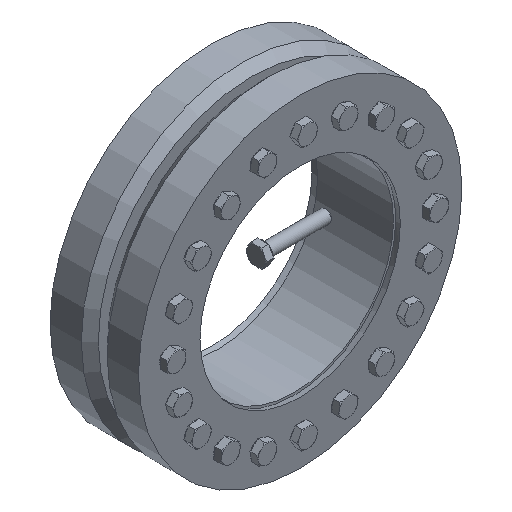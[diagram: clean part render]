
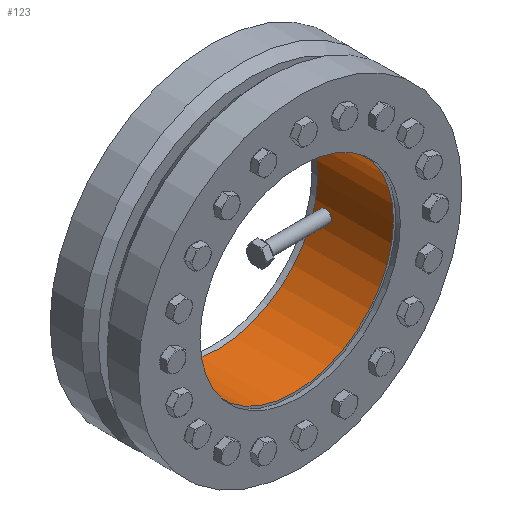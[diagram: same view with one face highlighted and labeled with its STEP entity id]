
A CAD part, isometric view. The second image highlights one B-rep face of the part: STEP entity #123.
In plain terms, the highlighted cylindrical face has radius 160 mm (diameter 320 mm), a partial arc.
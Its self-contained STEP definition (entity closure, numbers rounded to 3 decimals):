
#123 = ADVANCED_FACE( '', ( #307 ), #308, .F. );
#307 = FACE_OUTER_BOUND( '', #680, .T. );
#308 = CYLINDRICAL_SURFACE( '', #681, 160. );
#680 = EDGE_LOOP( '', ( #1115, #1116, #1117, #1118 ) );
#681 = AXIS2_PLACEMENT_3D( '', #1119, #1120, #1121 );
#1115 = ORIENTED_EDGE( '', *, *, #1649, .F. );
#1116 = ORIENTED_EDGE( '', *, *, #1650, .F. );
#1117 = ORIENTED_EDGE( '', *, *, #1651, .T. );
#1118 = ORIENTED_EDGE( '', *, *, #1632, .T. );
#1119 = CARTESIAN_POINT( '', ( 0., -60., 0. ) );
#1120 = DIRECTION( '', ( 0., 1., 0. ) );
#1121 = DIRECTION( '', ( 0., 0., -1. ) );
#1632 = EDGE_CURVE( '', #1890, #1888, #1891, .T. );
#1649 = EDGE_CURVE( '', #1917, #1888, #1918, .T. );
#1650 = EDGE_CURVE( '', #1919, #1917, #1920, .T. );
#1651 = EDGE_CURVE( '', #1919, #1890, #1921, .T. );
#1888 = VERTEX_POINT( '', #2364 );
#1890 = VERTEX_POINT( '', #2367 );
#1891 = CIRCLE( '', #2368, 160. );
#1917 = VERTEX_POINT( '', #2397 );
#1918 = LINE( '', #2398, #2399 );
#1919 = VERTEX_POINT( '', #2400 );
#1920 = CIRCLE( '', #2401, 160. );
#1921 = LINE( '', #2402, #2403 );
#2364 = CARTESIAN_POINT( '', ( 7.1, -61., 159.842 ) );
#2367 = CARTESIAN_POINT( '', ( -7.1, -61., 159.842 ) );
#2368 = AXIS2_PLACEMENT_3D( '', #2740, #2741, #2742 );
#2397 = CARTESIAN_POINT( '', ( 7.1, 61., 159.842 ) );
#2398 = CARTESIAN_POINT( '', ( 7.1, -60., 159.842 ) );
#2399 = VECTOR( '', #2770, 1000. );
#2400 = CARTESIAN_POINT( '', ( -7.1, 61., 159.842 ) );
#2401 = AXIS2_PLACEMENT_3D( '', #2771, #2772, #2773 );
#2402 = CARTESIAN_POINT( '', ( -7.1, -60., 159.842 ) );
#2403 = VECTOR( '', #2774, 1000. );
#2740 = CARTESIAN_POINT( '', ( 0., -61., 0. ) );
#2741 = DIRECTION( '', ( 0., -1., 0. ) );
#2742 = DIRECTION( '', ( 0., 0., -1. ) );
#2770 = DIRECTION( '', ( 0., -1., 0. ) );
#2771 = CARTESIAN_POINT( '', ( 0., 61., 0. ) );
#2772 = DIRECTION( '', ( 0., -1., 0. ) );
#2773 = DIRECTION( '', ( 0., 0., -1. ) );
#2774 = DIRECTION( '', ( 0., -1., 0. ) );
